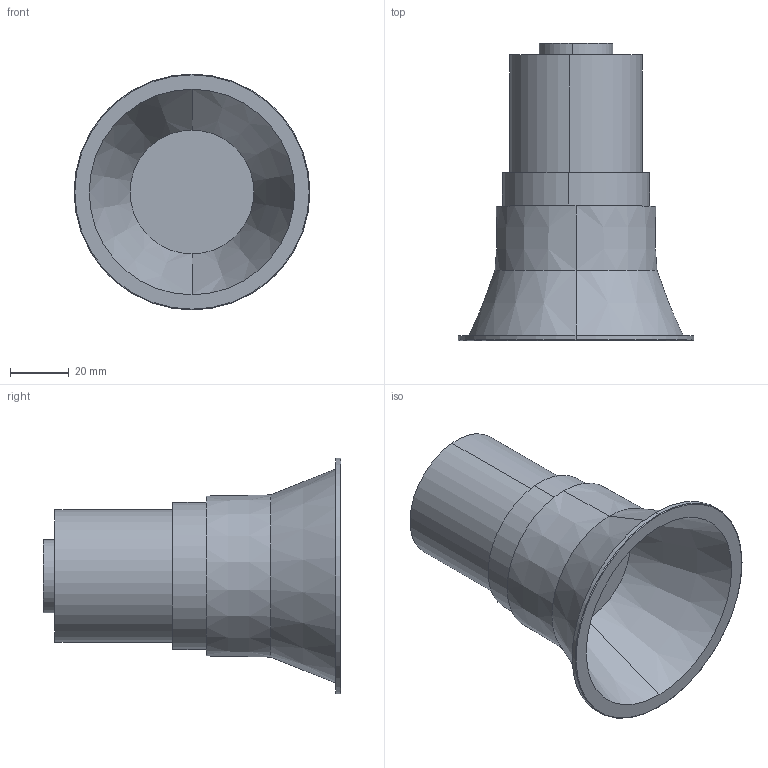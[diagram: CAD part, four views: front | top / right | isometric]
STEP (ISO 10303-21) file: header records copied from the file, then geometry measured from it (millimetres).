
FILE_DESCRIPTION (( 'STEP AP214' ), '1' );
FILE_NAME ('KONO 01-6W.STEP', '2017-08-22T11:55:38', ( 'Ofitecnic3' ), ( 'Microsoft' ), 'SwSTEP 2.0', 'SolidWorks 2016', '' );
FILE_SCHEMA (( 'AUTOMOTIVE_DESIGN' ));
Length unit declared in the file: millimetre
Products named in the file (3): MODULOS VS-BIM_6W; Cuerpo Kono_01_02-BIM_ringO_1; KONO 01-6W
Assembly tree (2 placements, depth 2):
  KONO 01-6W
    Cuerpo Kono_01_02-BIM_ringO_1
    MODULOS VS-BIM_6W
Bounding box: 80 x 101 x 80 mm (x, y, z)
Volume: 129035.1 mm3; surface area: 35484.6 mm2
Topology: 2 solids, 2 shells, 30 faces, 58 edges, 36 vertices
Faces by surface type: cone 10, cylinder 8, plane 8, torus 4
Entity records: 1024 total; most frequent: DIRECTION 168, CARTESIAN_POINT 129, ORIENTED_EDGE 116, AXIS2_PLACEMENT_3D 75, EDGE_CURVE 58, CIRCLE 40, VERTEX_POINT 36, EDGE_LOOP 36
